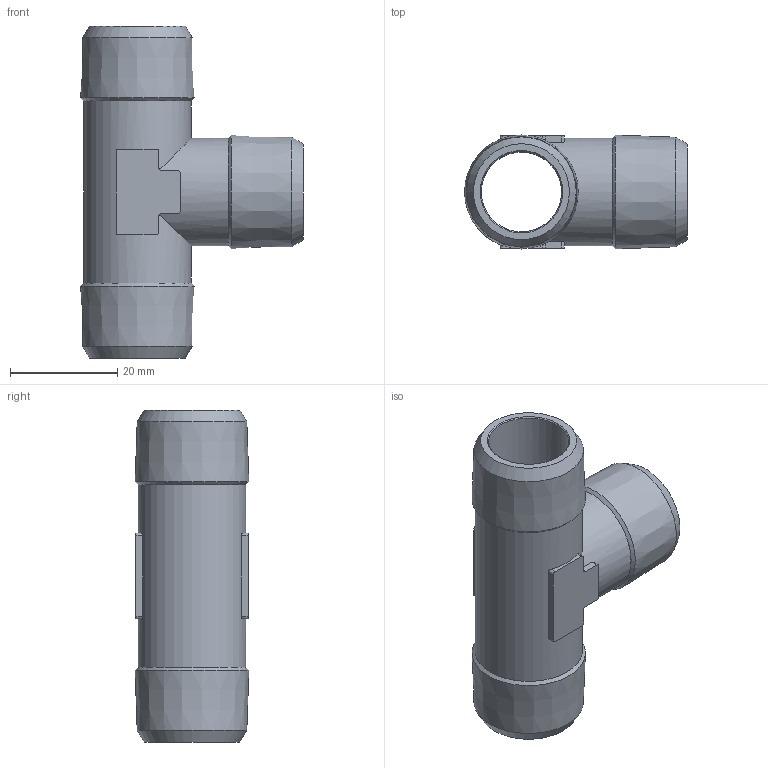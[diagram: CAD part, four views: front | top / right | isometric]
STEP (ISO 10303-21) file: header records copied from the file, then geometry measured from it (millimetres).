
FILE_DESCRIPTION(/* description */ (''),/* implementation_level */ '2;1');
FILE_NAME(/* name */ '40106_116_R12_29.09.16',/* time_stamp */ '2016-09-29T10:35:37+02:00',/* author */ (''),/* organization */ (''),/* preprocessor_version */ 'ST-DEVELOPER v16.5',/* originating_system */ 'HiCAD 2016 2101.0 Build 254',/* authorisation */ '');
FILE_SCHEMA (('AUTOMOTIVE_DESIGN { 1 0 10303 214 1 1 1 1 }'));
Length unit declared in the file: millimetre
Products named in the file (2): Root; 40106_113_1-2
Assembly tree (1 placements, depth 2):
  Root
    40106_113_1-2
Bounding box: 41.61 x 21.23 x 62 mm (x, y, z)
Volume: 12379.9 mm3; surface area: 9485.8 mm2
Topology: 1 solids, 1 shells, 56 faces, 149 edges, 100 vertices
Faces by surface type: plane 24, cylinder 20, cone 12
Full cylindrical faces by diameter (mm): 15 x2, 20.1 x2
Entity records: 5498 total; most frequent: CARTESIAN_POINT 2937, DIRECTION 268, PRESENTATION_STYLE_ASSIGNMENT 251, COLOUR_RGB 251, DRAUGHTING_PRE_DEFINED_CURVE_FONT 250, CURVE_STYLE 250, OVER_RIDING_STYLED_ITEM 250, ORIENTED_EDGE 250
